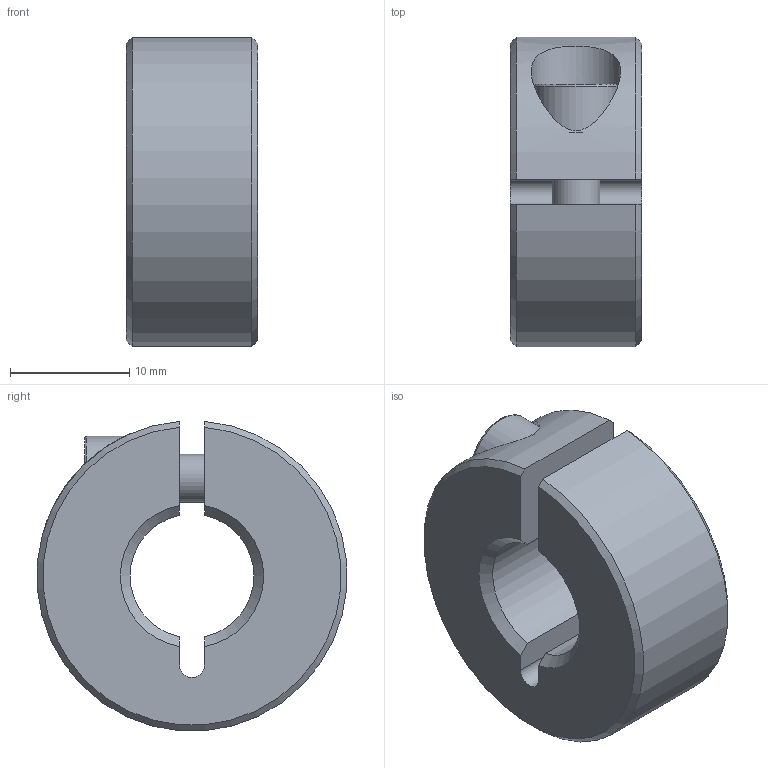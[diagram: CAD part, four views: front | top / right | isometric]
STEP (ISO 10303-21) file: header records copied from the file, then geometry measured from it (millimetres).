
FILE_DESCRIPTION( ( 'STEP AP203' ), '1' );
FILE_NAME( 'C:/Temp/Ganter_Step_05_03_2020/data/3_2/gn706_3/gn706_3_st/Threaded set collar GN 706.3-26-M12x1,5-ST.stp', '2020-03-13T05:33:34', ( 'License CC BY-ND 4.0' ), ( 'CADENAS' ), ' ', 'PARTsolutions', ' ' );
FILE_SCHEMA( ( 'CONFIG_CONTROL_DESIGN' ) );
Length unit declared in the file: millimetre
Products named in the file (1): _Threaded set collar GN 706.3-26-M12x1,5-ST
Bounding box: 11 x 25.91 x 25.91 mm (x, y, z)
Volume: 4555.8 mm3; surface area: 2529 mm2
Topology: 1 solids, 1 shells, 31 faces, 74 edges, 49 vertices
Faces by surface type: plane 16, cylinder 8, cone 6, torus 1
Full cylindrical faces by diameter (mm): 4 x1, 4.3 x1, 7 x1, 7.5 x1
Entity records: 1008 total; most frequent: CARTESIAN_POINT 259, DIRECTION 142, ORIENTED_EDGE 138, EDGE_CURVE 69, AXIS2_PLACEMENT_3D 54, VERTEX_POINT 49, EDGE_LOOP 42, FACE_OUTER_BOUND 36
